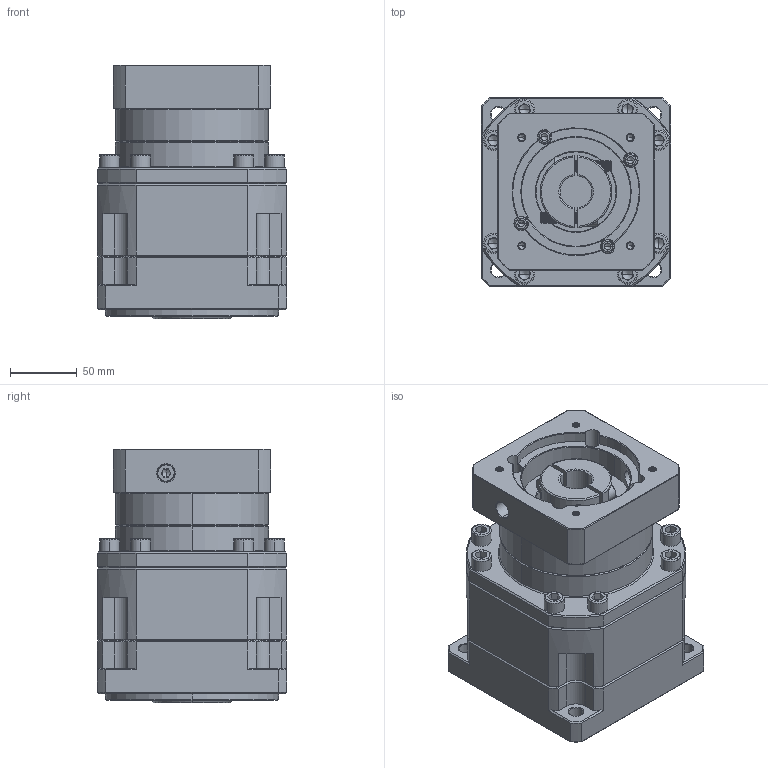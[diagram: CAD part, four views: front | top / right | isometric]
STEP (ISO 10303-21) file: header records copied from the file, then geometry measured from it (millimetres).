
FILE_DESCRIPTION (( 'STEP AP214' ), '1' );
FILE_NAME ('ZB142A-K35-L2-P2-24-95-115-M6.step', '2023-09-02T02:54:26', ( '' ), ( '' ), 'SwSTEP 2.0', 'SolidWorks 2016', '' );
FILE_SCHEMA (( 'AUTOMOTIVE_DESIGN' ));
Length unit declared in the file: millimetre
Products named in the file (1): ZB142A-K35-L2-P2-24-95-115-M6
Bounding box: 142 x 142 x 190.7 mm (x, y, z)
Volume: 2701258.7 mm3; surface area: 225180.4 mm2
Topology: 6 solids, 6 shells, 2502 faces, 6571 edges, 4190 vertices
Faces by surface type: plane 1198, cylinder 452, bspline 418, cone 398, torus 36
Entity records: 129261 total; most frequent: CARTESIAN_POINT 43140, ORIENTED_EDGE 13038, DIRECTION 10730, EDGE_CURVE 6519, VERTEX_POINT 4190, VECTOR 4158, LINE 4158, AXIS2_PLACEMENT_3D 3286
